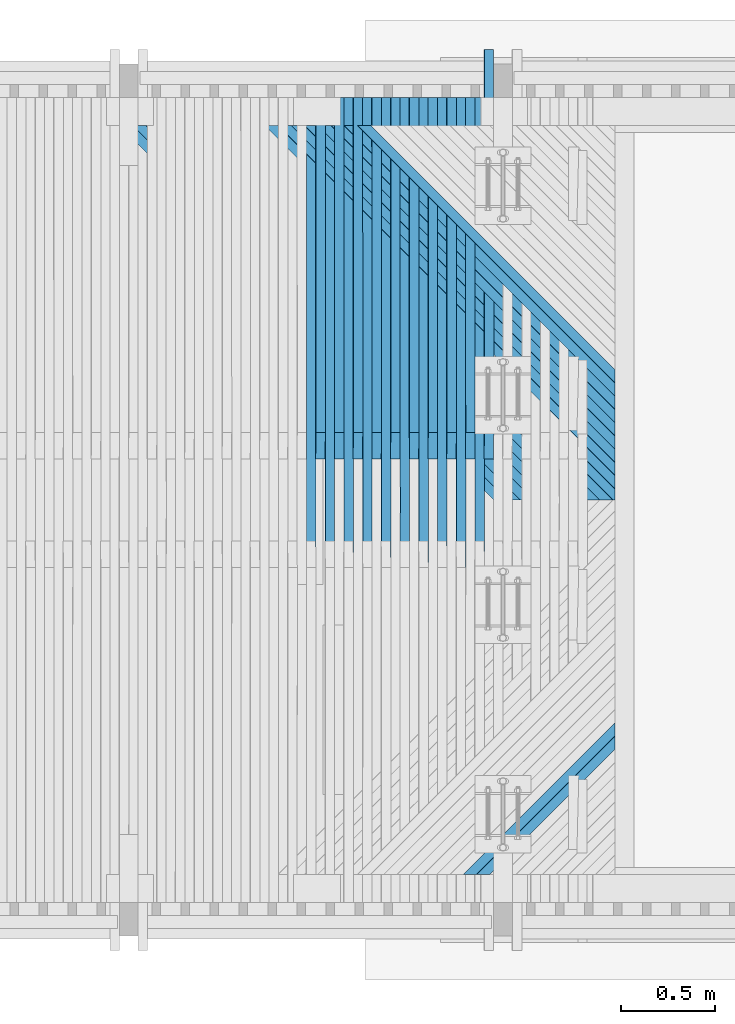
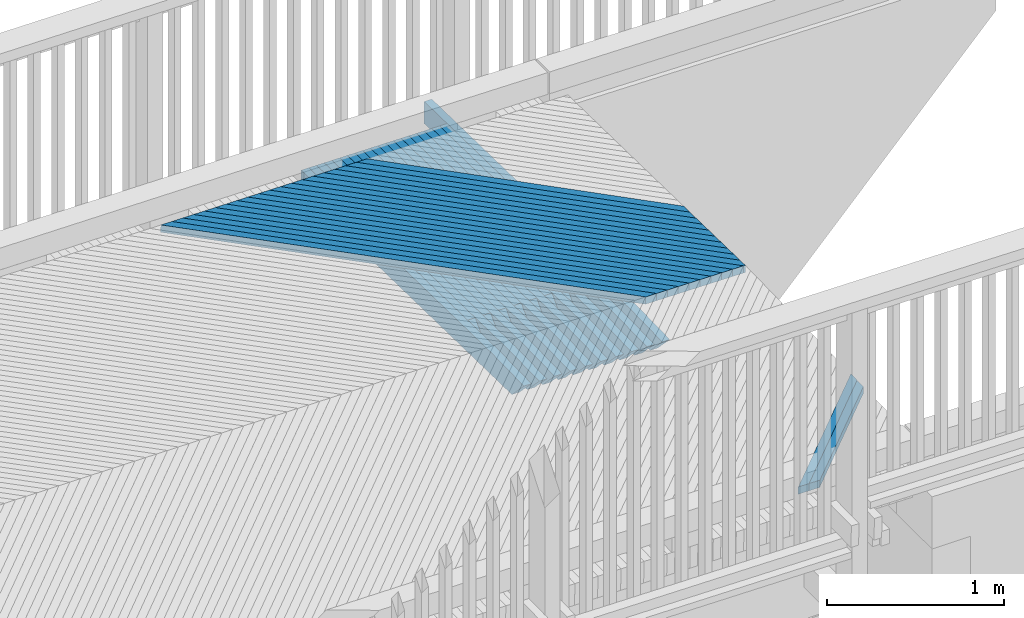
# One storey, part 43 of 52: 41 beams.
"""IFC2X3 building model written with IfcOpenShell, lengths in millimetres."""

from ifc_helpers import new_model, si_unit, frame, origin_with_axes, place, context, subcontext, project, spatial, faceted_brep, material, type_object, element, save


model = new_model("IFC2X3")

# Units and contexts
model_context = context("Model", 3, precision=1e-05, world=origin_with_axes())
body_context = subcontext(model_context, "Body", "Model", "MODEL_VIEW")
ifc_project = project(units=[si_unit("LENGTHUNIT", "METRE", prefix="MILLI"), si_unit("AREAUNIT", "SQUARE_METRE"), si_unit("VOLUMEUNIT", "CUBIC_METRE"), si_unit("MASSUNIT", "GRAM", prefix="KILO"), si_unit("TIMEUNIT", "SECOND"), si_unit("PLANEANGLEUNIT", "RADIAN"), si_unit("SOLIDANGLEUNIT", "STERADIAN"), si_unit("THERMODYNAMICTEMPERATUREUNIT", "DEGREE_CELSIUS"), si_unit("LUMINOUSINTENSITYUNIT", "LUMEN")], contexts=[model_context])

# Site, building, storey
site_placement = place(None, origin_with_axes())
site = spatial("IfcSite", under=ifc_project, at=site_placement, Name="Undefined", CompositionType="ELEMENT")
building_placement = place(site_placement, origin_with_axes())
building = spatial("IfcBuilding", under=site, at=building_placement, Name="Undefined", CompositionType="ELEMENT")
storey_placement = place(building_placement, origin_with_axes())
storey = spatial("IfcBuildingStorey", under=building, at=storey_placement, Name="Undefined", CompositionType="ELEMENT", Elevation=0.0)

# Beams
ifc_material = material(Name="TIMBER/Timber_Undefined")
beam_type_1 = type_object("IfcBeamType", Name="50*50", PredefinedType="NOTDEFINED")
beam_1_placement = place(storey_placement, frame((17895.3052888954, 2364.50010032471, 3154.80495489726), z_axis=(0.706807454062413, -0.706981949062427, -0.0244897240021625), x_axis=(-0.707254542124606, -0.706948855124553, -0.00378535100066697)))
element("IfcBeam", 1, at=beam_1_placement, inside=storey, type_object=beam_type_1, material=ifc_material, Name="BEAM", ObjectType="50*50", context=body_context, shape_type="Brep", body=[
    faceted_brep([(2802.92643296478, -25.0, 25.0000000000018), (2852.92877373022, -25.0, -24.9999999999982), (2854.34301907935, 25.0, -24.9999999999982), (2804.3406783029, 25.0000000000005, 25.0000000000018), (1805.95401836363, 25.0, -25.0000000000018), (1855.92241106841, 24.9999999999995, 24.9999999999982), (1856.95717342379, -25.0, 24.9999999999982), (1806.98878071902, -25.0, -25.0000000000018)], [[[0, 1, 2, 3]], [[3, 2, 4, 5]], [[0, 3, 5, 6]], [[1, 0, 6, 7]], [[2, 1, 7, 4]], [[6, 5, 4, 7]]]),
])
beam_2_placement = place(storey_placement, frame((17824.5905388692, 2364.50010032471, 3155.96311087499), z_axis=(0.706810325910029, -0.706981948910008, -0.0244067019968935), x_axis=(-0.707254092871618, -0.706948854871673, -0.00386842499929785)))
element("IfcBeam", 2, at=beam_2_placement, inside=storey, type_object=beam_type_1, material=ifc_material, Name="BEAM", ObjectType="50*50", context=body_context, shape_type="Brep", body=[
    faceted_brep([(2802.92643296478, -25.0, 25.0000000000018), (2852.92877373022, -25.0, -24.9999999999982), (2854.34301907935, 25.0, -24.9999999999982), (2804.3406783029, 25.0000000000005, 25.0000000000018), (1705.97428604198, 24.9999999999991, -25.0), (1755.94291351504, 24.9999999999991, 25.0), (1756.96937511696, -25.0, 24.9999999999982), (1707.0007476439, -25.0000000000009, -25.0000000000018)], [[[0, 1, 2, 3]], [[3, 2, 4, 5]], [[0, 3, 5, 6]], [[1, 0, 6, 7]], [[2, 1, 7, 4]], [[6, 5, 4, 7]]]),
])
beam_3_placement = place(storey_placement, frame((17258.8677408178, 2365.49989967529, 3164.92933385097), z_axis=(0.706832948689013, 0.706981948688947, -0.0237425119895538), x_axis=(-0.707250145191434, 0.706948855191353, -0.00453302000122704)))
element("IfcBeam", 3, at=beam_3_placement, inside=storey, type_object=beam_type_1, material=ifc_material, Name="BEAM", ObjectType="50*50", context=body_context, shape_type="Brep", body=[
    faceted_brep([(2804.3406783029, -25.0000000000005, 24.9999999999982), (2854.34301907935, -24.9999999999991, -25.0), (2852.92877373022, 25.0000000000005, -25.0), (2802.92643296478, 25.0, 24.9999999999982), (957.056097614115, 24.9999999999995, 25.0000000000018), (956.096042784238, -25.0000000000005, 25.0000000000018), (906.12553705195, -25.0, -24.9999999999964), (907.085591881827, 24.9999999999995, -24.9999999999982)], [[[0, 1, 2, 3]], [[0, 3, 4, 5]], [[1, 0, 5, 6]], [[2, 1, 6, 7]], [[3, 2, 7, 4]], [[6, 5, 4, 7]]]),
])
beam_4_placement = place(storey_placement, frame((17188.1518059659, 2365.49989967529, 3166.01273338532), z_axis=(0.706835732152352, 0.706981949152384, -0.0236594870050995), x_axis=(-0.707249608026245, 0.706948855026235, -0.00461609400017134)))
element("IfcBeam", 4, at=beam_4_placement, inside=storey, type_object=beam_type_1, material=ifc_material, Name="BEAM", ObjectType="50*50", context=body_context, shape_type="Brep", body=[
    faceted_brep([(2804.3406783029, -25.0000000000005, 24.9999999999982), (2854.34301907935, -24.9999999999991, -25.0), (2852.92877373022, 25.0000000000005, -25.0), (2802.92643296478, 25.0, 24.9999999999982), (857.065534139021, 25.0, 25.0), (856.113780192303, -24.9999999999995, 25.0), (806.143039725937, -25.0, -25.0), (807.094793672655, 24.9999999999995, -24.9999999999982)], [[[0, 1, 2, 3]], [[0, 3, 4, 5]], [[1, 0, 5, 6]], [[2, 1, 6, 7]], [[3, 2, 7, 4]], [[6, 5, 4, 7]]]),
])
beam_5_placement = place(storey_placement, frame((17117.4357443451, 2365.49989967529, 3167.08782657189), z_axis=(0.706838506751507, 0.706981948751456, -0.0235764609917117), x_axis=(-0.707249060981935, 0.706948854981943, -0.00469916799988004)))
element("IfcBeam", 5, at=beam_5_placement, inside=storey, type_object=beam_type_1, material=ifc_material, Name="BEAM", ObjectType="50*50", context=body_context, shape_type="Brep", body=[
    faceted_brep([(2804.3406783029, -25.0000000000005, 24.9999999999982), (2854.34301907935, -24.9999999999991, -25.0), (2852.92877373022, 25.0000000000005, -25.0), (2802.92643296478, 25.0, 24.9999999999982), (757.07464976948, 25.0000000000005, 25.0), (756.131196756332, -25.0, 25.0), (706.160221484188, -24.9999999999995, -25.0), (707.103674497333, 25.0, -25.0000000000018)], [[[0, 1, 2, 3]], [[0, 3, 4, 5]], [[1, 0, 5, 6]], [[2, 1, 6, 7]], [[3, 2, 7, 4]], [[6, 5, 4, 7]]]),
])
beam_6_placement = place(storey_placement, frame((17046.7195569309, 2365.49989967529, 3168.15461339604), z_axis=(0.706841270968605, 0.706981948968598, -0.0234934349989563), x_axis=(-0.707248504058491, 0.706948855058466, -0.00478224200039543)))
element("IfcBeam", 6, at=beam_6_placement, inside=storey, type_object=beam_type_1, material=ifc_material, Name="BEAM", ObjectType="50*50", context=body_context, shape_type="Brep", body=[
    faceted_brep([(2804.3406783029, -25.0000000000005, 24.9999999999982), (2854.34301907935, -24.9999999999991, -25.0), (2852.92877373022, 25.0000000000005, -25.0), (2802.92643296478, 25.0, 24.9999999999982), (657.083441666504, 24.9999999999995, 24.9999999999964), (656.148289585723, -25.0000000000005, 24.9999999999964), (606.177079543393, -25.0000000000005, -25.0000000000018), (607.112231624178, 25.0, -25.0000000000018)], [[[0, 1, 2, 3]], [[0, 3, 4, 5]], [[1, 0, 5, 6]], [[2, 1, 6, 7]], [[3, 2, 7, 4]], [[6, 5, 4, 7]]]),
])
beam_7_placement = place(storey_placement, frame((16976.0032446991, 2365.49989967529, 3169.21309384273), z_axis=(0.70684402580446, 0.706981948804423, -0.0234104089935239), x_axis=(-0.707247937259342, 0.706948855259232, -0.00486531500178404)))
element("IfcBeam", 7, at=beam_7_placement, inside=storey, type_object=beam_type_1, material=ifc_material, Name="BEAM", ObjectType="50*50", context=body_context, shape_type="Brep", body=[
    faceted_brep([(2804.3406783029, -25.0000000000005, 24.9999999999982), (2854.34301907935, -24.9999999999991, -25.0), (2852.92877373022, 25.0000000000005, -25.0), (2802.92643296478, 25.0, 24.9999999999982), (557.091907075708, 25.0, 25.0000000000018), (556.165055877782, -24.9999999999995, 25.0000000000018), (506.193611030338, -24.9999999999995, -24.9999999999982), (507.120462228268, 25.0, -24.9999999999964)], [[[0, 1, 2, 3]], [[0, 3, 4, 5]], [[1, 0, 5, 6]], [[2, 1, 6, 7]], [[3, 2, 7, 4]], [[6, 5, 4, 7]]]),
])
beam_8_placement = place(storey_placement, frame((16905.2868086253, 2365.49989967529, 3170.26326789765), z_axis=(0.706846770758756, 0.706981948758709, -0.0233273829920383), x_axis=(-0.707247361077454, 0.706948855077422, -0.00494838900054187)))
element("IfcBeam", 8, at=beam_8_placement, inside=storey, type_object=beam_type_1, material=ifc_material, Name="BEAM", ObjectType="50*50", context=body_context, shape_type="Brep", body=[
    faceted_brep([(2804.3406783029, -25.0000000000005, 24.9999999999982), (2854.34301907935, -24.9999999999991, -25.0), (2852.92877373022, 25.0000000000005, -25.0), (2802.92643296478, 25.0, 24.9999999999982), (457.100042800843, 25.0000000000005, 24.9999999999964), (456.18149253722, -25.0, 25.0000000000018), (406.209812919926, -24.9999999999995, -25.0), (407.128363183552, 25.0000000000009, -25.0000000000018)], [[[0, 1, 2, 3]], [[0, 3, 4, 5]], [[1, 0, 5, 6]], [[2, 1, 6, 7]], [[3, 2, 7, 4]], [[6, 5, 4, 7]]]),
])
beam_9_placement = place(storey_placement, frame((16834.5702496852, 2365.49989967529, 3171.30513554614), z_axis=(0.706849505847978, 0.706981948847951, -0.023244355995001), x_axis=(-0.707246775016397, 0.70694885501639, -0.00503146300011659)))
element("IfcBeam", 9, at=beam_9_placement, inside=storey, type_object=beam_type_1, material=ifc_material, Name="BEAM", ObjectType="50*50", context=body_context, shape_type="Brep", body=[
    faceted_brep([(2804.3406783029, -25.0000000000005, 24.9999999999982), (2854.34301907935, -24.9999999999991, -25.0), (2852.92877373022, 25.0000000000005, -25.0), (2802.92643296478, 25.0, 24.9999999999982), (357.107846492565, 24.9999999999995, 25.0), (356.19759721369, -25.0, 24.9999999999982), (306.225682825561, -25.0, -25.0000000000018), (307.135932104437, 24.9999999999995, -25.0)], [[[0, 1, 2, 3]], [[0, 3, 4, 5]], [[1, 0, 5, 6]], [[2, 1, 6, 7]], [[3, 2, 7, 4]], [[6, 5, 4, 7]]]),
])
beam_10_placement = place(storey_placement, frame((16763.8535688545, 2365.49989967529, 3172.33869677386), z_axis=(0.706852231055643, 0.706981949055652, -0.0231613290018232), x_axis=(-0.707246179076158, 0.706948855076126, -0.0051145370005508)))
element("IfcBeam", 10, at=beam_10_placement, inside=storey, type_object=beam_type_1, material=ifc_material, Name="BEAM", ObjectType="50*50", context=body_context, shape_type="Brep", body=[
    faceted_brep([(2804.3406783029, -25.0000000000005, 24.9999999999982), (2854.34301907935, -24.9999999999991, -25.0), (2852.92877373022, 25.0000000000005, -25.0), (2802.92643296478, 25.0, 24.9999999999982), (257.115315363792, 25.0000000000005, 25.0), (256.213367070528, -25.0, 25.0000000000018), (206.241217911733, -25.0, -24.9999999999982), (207.143166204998, 25.0000000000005, -24.9999999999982)], [[[0, 1, 2, 3]], [[0, 3, 4, 5]], [[1, 0, 5, 6]], [[2, 1, 6, 7]], [[3, 2, 7, 4]], [[6, 5, 4, 7]]]),
])
beam_11_placement = place(storey_placement, frame((16693.1367671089, 2365.49989967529, 3173.36395156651), z_axis=(0.706854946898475, 0.706981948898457, -0.0230783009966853), x_axis=(-0.7072455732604, 0.706948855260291, -0.00519761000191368)))
element("IfcBeam", 11, at=beam_11_placement, inside=storey, type_object=beam_type_1, material=ifc_material, Name="BEAM", ObjectType="50*50", context=body_context, shape_type="Brep", body=[
    faceted_brep([(2804.3406783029, -25.0000000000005, 24.9999999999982), (2854.34301907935, -24.9999999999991, -25.0), (2852.92877373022, 25.0000000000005, -25.0), (2802.92643296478, 25.0, 24.9999999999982), (157.122446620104, 25.0000000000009, 25.0000000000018), (156.228799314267, -24.9999999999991, 25.0000000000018), (106.256415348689, -24.9999999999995, -24.9999999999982), (107.150062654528, 25.0000000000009, -24.9999999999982)], [[[0, 1, 2, 3]], [[0, 3, 4, 5]], [[1, 0, 5, 6]], [[2, 1, 6, 7]], [[3, 2, 7, 4]], [[6, 5, 4, 7]]]),
])
beam_12_placement = place(storey_placement, frame((16622.419845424, 2365.49989967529, 3174.38089991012), z_axis=(0.706857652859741, 0.706981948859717, -0.0229952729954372), x_axis=(-0.707244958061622, 0.706948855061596, -0.00528068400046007)))
element("IfcBeam", 12, at=beam_12_placement, inside=storey, type_object=beam_type_1, material=ifc_material, Name="BEAM", ObjectType="50*50", context=body_context, shape_type="Brep", body=[
    faceted_brep([(25.0011701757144, -25.0, -25.0), (23.5869248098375, 25.0, -25.0000000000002), (2852.92877373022, 25.0000000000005, -25.0), (2854.34301907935, -24.9999999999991, -25.0), (2804.3406783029, -25.0000000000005, 24.9999999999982), (2802.92643296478, 25.0, 24.9999999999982), (57.1292373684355, 25.0000000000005, 24.9999999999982), (56.2438911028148, -24.9999999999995, 25.0), (15.6334371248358, -25.0, -15.632705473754), (15.3693294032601, 25.0, -16.7827892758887)], [[[0, 1, 2, 3]], [[4, 3, 2, 5]], [[4, 5, 6, 7]], [[0, 3, 4, 7, 8]], [[1, 0, 8, 9]], [[5, 2, 1, 9, 6]], [[8, 7, 6, 9]]]),
])
for number, where, z_axis, x_axis, name in (
    (13, (16551.7028047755, 2365.49989967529, 3175.38954179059), (0.706860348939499, 0.70698194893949, -0.0229122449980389), (-0.707244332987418, 0.706948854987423, -0.0053637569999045), "BEAM"),
    (14, (16480.9856461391, 2365.49989967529, 3176.38987719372), (0.706863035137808, 0.706981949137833, -0.0228292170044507), (-0.707243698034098, 0.706948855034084, -0.00544683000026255), "BEAM"),
    (15, (16410.2683704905, 2365.49989967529, 3177.38190610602), (0.706865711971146, 0.706981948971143, -0.0227461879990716), (-0.707243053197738, 0.706948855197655, -0.00552990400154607), "BEAM"),
    (16, (16339.5509788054, 2365.49989967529, 3178.36562851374), (0.706868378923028, 0.706981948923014, -0.0226631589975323), (-0.707242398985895, 0.7069488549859, -0.00561297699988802), "BEAM"),
    (17, (16268.8334720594, 2365.49989967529, 3179.34104440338), (0.706871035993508, 0.706981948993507, -0.0225801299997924), (-0.707241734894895, 0.706948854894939, -0.00569604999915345), "BEAM"),
    (18, (16198.1158512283, 2365.49989967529, 3180.30815376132), (0.706873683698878, 0.706981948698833, -0.0224970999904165), (-0.707241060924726, 0.706948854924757, -0.00577912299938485), "BEAM"),
    (19, (16127.3981172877, 2365.49989967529, 3181.26695657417), (0.706876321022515, 0.706981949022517, -0.0224140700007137), (-0.707240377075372, 0.706948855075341, -0.00586219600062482), "BEAM"),
    (20, (16056.6802712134, 2365.49989967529, 3182.21745282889), (0.706878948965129, 0.706981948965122, -0.0223310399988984), (-0.70723968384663, 0.706948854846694, -0.00594526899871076), "BEAM"),
    (21, (15985.962313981, 2365.49989967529, 3183.15964251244), (0.706881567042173, 0.706981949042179, -0.0222480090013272), (-0.707238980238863, 0.706948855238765, -0.00602834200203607), "BEAM"),
):
    element("IfcBeam", number, at=place(storey_placement, frame(where, z_axis=z_axis, x_axis=x_axis)), inside=storey, type_object=beam_type_1, material=ifc_material, Name=name, ObjectType="50*50", context=body_context, shape_type="Brep", body=[
        faceted_brep([(23.5869248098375, 25.0, -25.0000000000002), (-26.4154158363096, 25.0000000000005, 24.9999999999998), (2802.92643296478, 25.0, 24.9999999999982), (2852.92877373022, 25.0000000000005, -25.0), (-25.0011704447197, -25.0, 24.9999999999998), (2804.3406783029, -25.0000000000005, 24.9999999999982), (25.0011701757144, -25.0, -25.0), (2854.34301907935, -24.9999999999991, -25.0)], [[[0, 1, 2, 3]], [[1, 4, 5, 2]], [[4, 6, 7, 5]], [[6, 0, 3, 7]], [[5, 7, 3, 2]], [[6, 4, 1, 0]]]),
    ])
beam_type_2 = type_object("IfcBeamType", Name="150*50", PredefinedType="NOTDEFINED")
for number, where, z_axis, x_axis, name in (
    (22, (15874.7290061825, 4513.4953923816, 3041.62863633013), (0.0130016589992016, 0.0199960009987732, 0.999715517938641), (0.000260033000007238, -0.999800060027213, 0.0199943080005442), "BEAM"),
    (23, (15774.717424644, 4513.4953923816, 3042.92875591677), (0.0128355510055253, 0.0199960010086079, 0.999717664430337), (0.000256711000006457, -0.999800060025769, 0.0199943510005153), "BEAM"),
):
    element("IfcBeam", number, at=place(storey_placement, frame(where, z_axis=z_axis, x_axis=x_axis)), inside=storey, type_object=beam_type_2, material=ifc_material, Name=name, ObjectType="150*50", context=body_context, shape_type="Brep", body=[
        faceted_brep([(-1.67788130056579e-07, -24.9999999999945, -74.9999999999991), (-1.67787220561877e-07, 25.0000000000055, -75.0), (2375.00494422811, 25.0000000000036, -74.9999999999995), (2375.0049444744, -24.9999999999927, -74.9999999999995), (1.67786311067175e-07, -24.9999999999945, 75.0000000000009), (1.67786311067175e-07, 25.0000000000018, 75.0), (2150.42515052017, 25.0000000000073, 75.0), (2510.59248715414, 25.0000000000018, 60.5875433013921), (2510.5924871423, -24.9999999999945, 60.5875430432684), (2150.42514405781, -24.9999999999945, 75.0000000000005)], [[[0, 1, 2, 3]], [[0, 4, 5, 1]], [[2, 1, 5, 6, 7]], [[3, 2, 7, 8]], [[4, 0, 3, 8, 9]], [[5, 4, 9, 6]], [[8, 7, 6, 9]]]),
    ])
beam_13_placement = place(storey_placement, frame((15824.7332279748, 4513.49539238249, 3042.27828425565), z_axis=(0.0130016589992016, 0.0199960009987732, 0.999715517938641), x_axis=(0.000260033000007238, -0.999800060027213, 0.0199943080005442)))
element("IfcBeam", 24, at=beam_13_placement, inside=storey, type_object=beam_type_2, material=ifc_material, Name="BEAM", ObjectType="150*50", context=body_context, shape_type="Brep", body=[
    faceted_brep([(-1.67788130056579e-07, -24.9999999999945, -74.9999999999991), (1.67786311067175e-07, -24.9999999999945, 75.0000000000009), (1.67786311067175e-07, 25.0000000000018, 75.0), (-1.67787220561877e-07, 25.0000000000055, -75.0), (1789.96936408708, 24.9999999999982, 75.0000000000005), (1928.42646328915, 24.9999999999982, -74.9999999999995), (1928.42646353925, -25.0, -75.0), (1789.96936433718, -25.0000000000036, 74.9999999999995)], [[[0, 1, 2, 3]], [[3, 2, 4, 5]], [[0, 3, 5, 6]], [[1, 0, 6, 7]], [[2, 1, 7, 4]], [[5, 4, 7, 6]]]),
])
beam_14_placement = place(storey_placement, frame((15674.7056284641, 4513.4953923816, 3044.21225802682), z_axis=(0.012669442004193, 0.0199960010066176, 0.999719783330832), x_axis=(0.000253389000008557, -0.99980006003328, 0.0199943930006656)))
element("IfcBeam", 25, at=beam_14_placement, inside=storey, type_object=beam_type_2, material=ifc_material, Name="BEAM", ObjectType="150*50", context=body_context, shape_type="Brep", body=[
    faceted_brep([(-1.67788130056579e-07, -24.9999999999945, -74.9999999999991), (-1.67787220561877e-07, 25.0000000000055, -75.0), (2375.00494422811, 25.0000000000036, -74.9999999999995), (2375.0049444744, -24.9999999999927, -74.9999999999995), (1.67786311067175e-07, -24.9999999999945, 75.0000000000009), (1.67786311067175e-07, 25.0000000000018, 75.0), (2150.42515052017, 25.0000000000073, 75.0), (2510.59248715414, 25.0000000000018, 60.5875433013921), (2510.5924871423, -24.9999999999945, 60.5875430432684), (2150.42514405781, -24.9999999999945, 75.0000000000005)], [[[0, 1, 2, 3]], [[0, 4, 5, 1]], [[2, 1, 5, 6, 7]], [[3, 2, 7, 8]], [[4, 0, 3, 8, 9]], [[5, 4, 9, 6]], [[8, 7, 6, 9]]]),
])
beam_15_placement = place(storey_placement, frame((15724.7215391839, 4513.49539238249, 3043.57009676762), z_axis=(0.0128355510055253, 0.0199960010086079, 0.999717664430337), x_axis=(0.000256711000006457, -0.999800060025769, 0.0199943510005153)))
element("IfcBeam", 26, at=beam_15_placement, inside=storey, type_object=beam_type_2, material=ifc_material, Name="BEAM", ObjectType="150*50", context=body_context, shape_type="Brep", body=[
    faceted_brep([(-1.67788130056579e-07, -24.9999999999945, -74.9999999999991), (1.67786311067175e-07, -24.9999999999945, 75.0000000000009), (1.67786311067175e-07, 25.0000000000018, 75.0), (-1.67787220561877e-07, 25.0000000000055, -75.0), (1789.96936408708, 24.9999999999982, 75.0000000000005), (1928.42646328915, 24.9999999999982, -74.9999999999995), (1928.42646353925, -25.0, -75.0), (1789.96936433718, -25.0000000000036, 74.9999999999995)], [[[0, 1, 2, 3]], [[3, 2, 4, 5]], [[0, 3, 5, 6]], [[1, 0, 6, 7]], [[2, 1, 7, 4]], [[5, 4, 7, 6]]]),
])
beam_16_placement = place(storey_placement, frame((15574.6936204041, 4513.4953923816, 3045.47914262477), z_axis=(0.0125033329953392, 0.0199960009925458, 0.999721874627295), x_axis=(0.000250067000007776, -0.999800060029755, 0.0199944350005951)))
element("IfcBeam", 27, at=beam_16_placement, inside=storey, type_object=beam_type_2, material=ifc_material, Name="BEAM", ObjectType="150*50", context=body_context, shape_type="Brep", body=[
    faceted_brep([(-1.67788130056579e-07, -24.9999999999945, -74.9999999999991), (-1.67787220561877e-07, 25.0000000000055, -75.0), (2375.00494422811, 25.0000000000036, -74.9999999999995), (2375.0049444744, -24.9999999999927, -74.9999999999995), (1.67786311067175e-07, -24.9999999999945, 75.0000000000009), (1.67786311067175e-07, 25.0000000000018, 75.0), (2150.42515052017, 25.0000000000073, 75.0), (2510.59248715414, 25.0000000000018, 60.5875433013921), (2510.5924871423, -24.9999999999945, 60.5875430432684), (2150.42514405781, -24.9999999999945, 75.0000000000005)], [[[0, 1, 2, 3]], [[0, 4, 5, 1]], [[2, 1, 5, 6, 7]], [[3, 2, 7, 8]], [[4, 0, 3, 8, 9]], [[5, 4, 9, 6]], [[8, 7, 6, 9]]]),
])
beam_17_placement = place(storey_placement, frame((15624.7096371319, 4513.49539238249, 3044.8452917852), z_axis=(0.012669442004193, 0.0199960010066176, 0.999719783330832), x_axis=(0.000253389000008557, -0.99980006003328, 0.0199943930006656)))
element("IfcBeam", 28, at=beam_17_placement, inside=storey, type_object=beam_type_2, material=ifc_material, Name="BEAM", ObjectType="150*50", context=body_context, shape_type="Brep", body=[
    faceted_brep([(-1.67788130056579e-07, -24.9999999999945, -74.9999999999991), (1.67786311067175e-07, -24.9999999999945, 75.0000000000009), (1.67786311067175e-07, 25.0000000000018, 75.0), (-1.67787220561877e-07, 25.0000000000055, -75.0), (1789.96936408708, 24.9999999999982, 75.0000000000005), (1928.42646328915, 24.9999999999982, -74.9999999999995), (1928.42646353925, -25.0, -75.0), (1789.96936433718, -25.0000000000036, 74.9999999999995)], [[[0, 1, 2, 3]], [[3, 2, 4, 5]], [[0, 3, 5, 6]], [[1, 0, 6, 7]], [[2, 1, 7, 4]], [[5, 4, 7, 6]]]),
])
beam_18_placement = place(storey_placement, frame((15474.6814032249, 4513.4953923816, 3046.72940967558), z_axis=(0.0123372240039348, 0.0199960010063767, 0.999723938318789), x_axis=(0.000246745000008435, -0.999800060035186, 0.0199944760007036)))
element("IfcBeam", 29, at=beam_18_placement, inside=storey, type_object=beam_type_2, material=ifc_material, Name="BEAM", ObjectType="150*50", context=body_context, shape_type="Brep", body=[
    faceted_brep([(-1.67788130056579e-07, -24.9999999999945, -74.9999999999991), (-1.67787220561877e-07, 25.0000000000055, -75.0), (2375.00494422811, 25.0000000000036, -74.9999999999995), (2375.0049444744, -24.9999999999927, -74.9999999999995), (1.67786311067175e-07, -24.9999999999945, 75.0000000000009), (1.67786311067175e-07, 25.0000000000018, 75.0), (2150.42515052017, 25.0000000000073, 75.0), (2510.59248715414, 25.0000000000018, 60.5875433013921), (2510.5924871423, -24.9999999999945, 60.5875430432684), (2150.42514405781, -24.9999999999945, 75.0000000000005)], [[[0, 1, 2, 3]], [[0, 4, 5, 1]], [[2, 1, 5, 6, 7]], [[3, 2, 7, 8]], [[4, 0, 3, 8, 9]], [[5, 4, 9, 6]], [[8, 7, 6, 9]]]),
])
beam_19_placement = place(storey_placement, frame((15524.6975245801, 4513.49539238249, 3046.10386927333), z_axis=(0.0125033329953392, 0.0199960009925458, 0.999721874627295), x_axis=(0.000250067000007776, -0.999800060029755, 0.0199944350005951)))
element("IfcBeam", 30, at=beam_19_placement, inside=storey, type_object=beam_type_2, material=ifc_material, Name="BEAM", ObjectType="150*50", context=body_context, shape_type="Brep", body=[
    faceted_brep([(-1.67788130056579e-07, -24.9999999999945, -74.9999999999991), (1.67786311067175e-07, -24.9999999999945, 75.0000000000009), (1.67786311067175e-07, 25.0000000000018, 75.0), (-1.67787220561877e-07, 25.0000000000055, -75.0), (1789.96936408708, 24.9999999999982, 75.0000000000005), (1928.42646328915, 24.9999999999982, -74.9999999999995), (1928.42646353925, -25.0, -75.0), (1789.96936433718, -25.0000000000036, 74.9999999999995)], [[[0, 1, 2, 3]], [[3, 2, 4, 5]], [[0, 3, 5, 6]], [[1, 0, 6, 7]], [[2, 1, 7, 4]], [[5, 4, 7, 6]]]),
])
beam_20_placement = place(storey_placement, frame((15374.6689796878, 4513.4953923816, 3047.96305914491), z_axis=(0.0121711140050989, 0.0199960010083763, 0.999725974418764), x_axis=(0.000243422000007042, -0.999800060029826, 0.0199945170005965)))
element("IfcBeam", 31, at=beam_20_placement, inside=storey, type_object=beam_type_2, material=ifc_material, Name="BEAM", ObjectType="150*50", context=body_context, shape_type="Brep", body=[
    faceted_brep([(-1.67788130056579e-07, -24.9999999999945, -74.9999999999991), (-1.67787220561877e-07, 25.0000000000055, -75.0), (2375.00494422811, 25.0000000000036, -74.9999999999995), (2375.0049444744, -24.9999999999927, -74.9999999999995), (1.67786311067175e-07, -24.9999999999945, 75.0000000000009), (1.67786311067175e-07, 25.0000000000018, 75.0), (2150.42515052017, 25.0000000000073, 75.0), (2510.59248715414, 25.0000000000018, 60.5875433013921), (2510.5924871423, -24.9999999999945, 60.5875430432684), (2150.42514405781, -24.9999999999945, 75.0000000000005)], [[[0, 1, 2, 3]], [[0, 4, 5, 1]], [[2, 1, 5, 6, 7]], [[3, 2, 7, 8]], [[4, 0, 3, 8, 9]], [[5, 4, 9, 6]], [[8, 7, 6, 9]]]),
])
beam_21_placement = place(storey_placement, frame((15424.6852042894, 4513.49539238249, 3047.34582919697), z_axis=(0.0123372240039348, 0.0199960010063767, 0.999723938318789), x_axis=(0.000246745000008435, -0.999800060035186, 0.0199944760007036)))
element("IfcBeam", 32, at=beam_21_placement, inside=storey, type_object=beam_type_2, material=ifc_material, Name="BEAM", ObjectType="150*50", context=body_context, shape_type="Brep", body=[
    faceted_brep([(-1.67788130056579e-07, -24.9999999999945, -74.9999999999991), (1.67786311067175e-07, -24.9999999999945, 75.0000000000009), (1.67786311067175e-07, 25.0000000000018, 75.0), (-1.67787220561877e-07, 25.0000000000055, -75.0), (1789.96936408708, 24.9999999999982, 75.0000000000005), (1928.42646328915, 24.9999999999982, -74.9999999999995), (1928.42646353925, -25.0, -75.0), (1789.96936433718, -25.0000000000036, 74.9999999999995)], [[[0, 1, 2, 3]], [[3, 2, 4, 5]], [[0, 3, 5, 6]], [[1, 0, 6, 7]], [[2, 1, 7, 4]], [[5, 4, 7, 6]]]),
])
beam_22_placement = place(storey_placement, frame((15274.6563525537, 4513.4953923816, 3049.1800909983), z_axis=(0.0120050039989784, 0.019996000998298, 0.999727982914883), x_axis=(0.000240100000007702, -0.999800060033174, 0.0199945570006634)))
element("IfcBeam", 33, at=beam_22_placement, inside=storey, type_object=beam_type_2, material=ifc_material, Name="BEAM", ObjectType="150*50", context=body_context, shape_type="Brep", body=[
    faceted_brep([(-1.67788130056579e-07, -24.9999999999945, -74.9999999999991), (-1.67787220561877e-07, 25.0000000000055, -75.0), (2375.00494422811, 25.0000000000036, -74.9999999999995), (2375.0049444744, -24.9999999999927, -74.9999999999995), (1.67786311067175e-07, -24.9999999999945, 75.0000000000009), (1.67786311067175e-07, 25.0000000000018, 75.0), (2150.42515052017, 25.0000000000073, 75.0), (2510.59248715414, 25.0000000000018, 60.5875433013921), (2510.5924871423, -24.9999999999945, 60.5875430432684), (2150.42514405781, -24.9999999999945, 75.0000000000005)], [[[0, 1, 2, 3]], [[0, 4, 5, 1]], [[2, 1, 5, 6, 7]], [[3, 2, 7, 8]], [[4, 0, 3, 8, 9]], [[5, 4, 9, 6]], [[8, 7, 6, 9]]]),
])
beam_23_placement = place(storey_placement, frame((15324.672679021, 4513.49539238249, 3048.57117152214), z_axis=(0.0121711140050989, 0.0199960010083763, 0.999725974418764), x_axis=(0.000243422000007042, -0.999800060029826, 0.0199945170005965)))
element("IfcBeam", 34, at=beam_23_placement, inside=storey, type_object=beam_type_2, material=ifc_material, Name="BEAM", ObjectType="150*50", context=body_context, shape_type="Brep", body=[
    faceted_brep([(-1.67788130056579e-07, -24.9999999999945, -74.9999999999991), (1.67786311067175e-07, -24.9999999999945, 75.0000000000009), (1.67786311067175e-07, 25.0000000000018, 75.0), (-1.67787220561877e-07, 25.0000000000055, -75.0), (1789.96936408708, 24.9999999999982, 75.0000000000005), (1928.42646328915, 24.9999999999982, -74.9999999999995), (1928.42646353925, -25.0, -75.0), (1789.96936433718, -25.0000000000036, 74.9999999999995)], [[[0, 1, 2, 3]], [[3, 2, 4, 5]], [[0, 3, 5, 6]], [[1, 0, 6, 7]], [[2, 1, 7, 4]], [[5, 4, 7, 6]]]),
])
beam_24_placement = place(storey_placement, frame((15174.6435245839, 4513.4953923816, 3050.38050520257), z_axis=(0.0118388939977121, 0.0199960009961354, 0.999729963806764), x_axis=(0.0002367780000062, -0.999800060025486, 0.0199945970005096)))
element("IfcBeam", 35, at=beam_24_placement, inside=storey, type_object=beam_type_2, material=ifc_material, Name="BEAM", ObjectType="150*50", context=body_context, shape_type="Brep", body=[
    faceted_brep([(-1.67788130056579e-07, -24.9999999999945, -74.9999999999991), (-1.67787220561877e-07, 25.0000000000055, -75.0), (2375.00494422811, 25.0000000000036, -74.9999999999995), (2375.0049444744, -24.9999999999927, -74.9999999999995), (1.67786311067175e-07, -24.9999999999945, 75.0000000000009), (1.67786311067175e-07, 25.0000000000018, 75.0), (2150.42515052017, 25.0000000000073, 75.0), (2510.59248715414, 25.0000000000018, 60.5875433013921), (2510.5924871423, -24.9999999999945, 60.5875430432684), (2150.42514405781, -24.9999999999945, 75.0000000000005)], [[[0, 1, 2, 3]], [[0, 4, 5, 1]], [[2, 1, 5, 6, 7]], [[3, 2, 7, 8]], [[4, 0, 3, 8, 9]], [[5, 4, 9, 6]], [[8, 7, 6, 9]]]),
])
beam_25_placement = place(storey_placement, frame((15224.659951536, 4513.49539238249, 3049.77989621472), z_axis=(0.0120050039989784, 0.019996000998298, 0.999727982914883), x_axis=(0.000240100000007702, -0.999800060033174, 0.0199945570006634)))
element("IfcBeam", 36, at=beam_25_placement, inside=storey, type_object=beam_type_2, material=ifc_material, Name="BEAM", ObjectType="150*50", context=body_context, shape_type="Brep", body=[
    faceted_brep([(-1.67788130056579e-07, -24.9999999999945, -74.9999999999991), (1.67786311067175e-07, -24.9999999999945, 75.0000000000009), (1.67786311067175e-07, 25.0000000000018, 75.0), (-1.67787220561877e-07, 25.0000000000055, -75.0), (1789.96936408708, 24.9999999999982, 75.0000000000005), (1928.42646328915, 24.9999999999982, -74.9999999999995), (1928.42646353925, -25.0, -75.0), (1789.96936433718, -25.0000000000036, 74.9999999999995)], [[[0, 1, 2, 3]], [[3, 2, 4, 5]], [[0, 3, 5, 6]], [[1, 0, 6, 7]], [[2, 1, 7, 4]], [[5, 4, 7, 6]]]),
])
beam_26_placement = place(storey_placement, frame((15074.6304985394, 4513.4953923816, 3051.56430172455), z_axis=(0.0116727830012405, 0.0199960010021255, 0.999731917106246), x_axis=(0.000233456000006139, -0.999800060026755, 0.0199946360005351)))
element("IfcBeam", 37, at=beam_26_placement, inside=storey, type_object=beam_type_2, material=ifc_material, Name="BEAM", ObjectType="150*50", context=body_context, shape_type="Brep", body=[
    faceted_brep([(-1.67788130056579e-07, -24.9999999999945, -74.9999999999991), (-1.67787220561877e-07, 25.0000000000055, -75.0), (2375.00494422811, 25.0000000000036, -74.9999999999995), (2375.0049444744, -24.9999999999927, -74.9999999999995), (1.67786311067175e-07, -24.9999999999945, 75.0000000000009), (1.67786311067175e-07, 25.0000000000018, 75.0), (2150.42515052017, 25.0000000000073, 75.0), (2510.59248715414, 25.0000000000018, 60.5875433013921), (2510.5924871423, -24.9999999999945, 60.5875430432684), (2150.42514405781, -24.9999999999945, 75.0000000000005)], [[[0, 1, 2, 3]], [[0, 4, 5, 1]], [[2, 1, 5, 6, 7]], [[3, 2, 7, 8]], [[4, 0, 3, 8, 9]], [[5, 4, 9, 6]], [[8, 7, 6, 9]]]),
])
beam_27_placement = place(storey_placement, frame((15124.6470245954, 4513.49539238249, 3050.97200324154), z_axis=(0.0118388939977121, 0.0199960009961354, 0.999729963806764), x_axis=(0.0002367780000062, -0.999800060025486, 0.0199945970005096)))
element("IfcBeam", 38, at=beam_27_placement, inside=storey, type_object=beam_type_2, material=ifc_material, Name="BEAM", ObjectType="150*50", context=body_context, shape_type="Brep", body=[
    faceted_brep([(-1.67788130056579e-07, -24.9999999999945, -74.9999999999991), (1.67786311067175e-07, -24.9999999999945, 75.0000000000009), (1.67786311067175e-07, 25.0000000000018, 75.0), (-1.67787220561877e-07, 25.0000000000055, -75.0), (1789.96936408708, 24.9999999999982, 75.0000000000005), (1928.42646328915, 24.9999999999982, -74.9999999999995), (1928.42646353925, -25.0, -75.0), (1789.96936433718, -25.0000000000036, 74.9999999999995)], [[[0, 1, 2, 3]], [[3, 2, 4, 5]], [[0, 3, 5, 6]], [[1, 0, 6, 7]], [[2, 1, 7, 4]], [[5, 4, 7, 6]]]),
])
beam_28_placement = place(storey_placement, frame((14974.6172771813, 4513.4953923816, 3052.73148053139), z_axis=(0.0115066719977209, 0.0199960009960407, 0.999733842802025), x_axis=(0.00023013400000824, -0.999800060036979, 0.0199946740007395)))
element("IfcBeam", 39, at=beam_28_placement, inside=storey, type_object=beam_type_2, material=ifc_material, Name="BEAM", ObjectType="150*50", context=body_context, shape_type="Brep", body=[
    faceted_brep([(-1.67788130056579e-07, -24.9999999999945, -74.9999999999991), (-1.67787220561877e-07, 25.0000000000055, -75.0), (2375.00494422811, 25.0000000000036, -74.9999999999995), (2375.0049444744, -24.9999999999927, -74.9999999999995), (1.67786311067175e-07, -24.9999999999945, 75.0000000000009), (1.67786311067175e-07, 25.0000000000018, 75.0), (2150.42515052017, 25.0000000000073, 75.0), (2510.59248715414, 25.0000000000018, 60.5875433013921), (2510.5924871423, -24.9999999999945, 60.5875430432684), (2150.42514405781, -24.9999999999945, 75.0000000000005)], [[[0, 1, 2, 3]], [[0, 4, 5, 1]], [[2, 1, 5, 6, 7]], [[3, 2, 7, 8]], [[4, 0, 3, 8, 9]], [[5, 4, 9, 6]], [[8, 7, 6, 9]]]),
])
beam_29_placement = place(storey_placement, frame((15024.6339009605, 4513.49539238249, 3052.14749256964), z_axis=(0.0116727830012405, 0.0199960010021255, 0.999731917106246), x_axis=(0.000233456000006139, -0.999800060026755, 0.0199946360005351)))
element("IfcBeam", 40, at=beam_29_placement, inside=storey, type_object=beam_type_2, material=ifc_material, Name="BEAM", ObjectType="150*50", context=body_context, shape_type="Brep", body=[
    faceted_brep([(-1.67788130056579e-07, -24.9999999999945, -74.9999999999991), (1.67786311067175e-07, -24.9999999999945, 75.0000000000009), (1.67786311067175e-07, 25.0000000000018, 75.0), (-1.67787220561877e-07, 25.0000000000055, -75.0), (1789.96936408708, 24.9999999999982, 75.0000000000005), (1928.42646328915, 24.9999999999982, -74.9999999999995), (1928.42646353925, -25.0, -75.0), (1789.96936433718, -25.0000000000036, 74.9999999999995)], [[[0, 1, 2, 3]], [[3, 2, 4, 5]], [[0, 3, 5, 6]], [[1, 0, 6, 7]], [[2, 1, 7, 4]], [[5, 4, 7, 6]]]),
])
beam_30_placement = place(storey_placement, frame((15924.4354192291, 4771.44380785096, 3035.81300890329), z_axis=(0.0131663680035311, 0.0199960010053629, 0.9997133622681), x_axis=(0.00026335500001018, -0.999800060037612, 0.0199942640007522)))
element("IfcBeam", 41, at=beam_30_placement, inside=storey, type_object=beam_type_2, material=ifc_material, Name="BEAM", ObjectType="150*50", context=body_context, shape_type="Brep", body=[
    faceted_brep([(-1.67788130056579e-07, -24.9999999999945, -74.9999999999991), (1.67786311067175e-07, -24.9999999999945, 75.0000000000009), (1.67786311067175e-07, 25.0000000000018, 75.0), (-1.67787220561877e-07, 25.0000000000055, -75.0), (2047.9693678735, 25.0, 75.0), (2186.42646676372, 24.9999999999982, -75.0), (2186.42645144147, -25.0, -75.0), (2047.96935255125, -25.0, 75.0)], [[[0, 1, 2, 3]], [[3, 2, 4, 5]], [[0, 3, 5, 6]], [[1, 0, 6, 7]], [[2, 1, 7, 4]], [[5, 4, 7, 6]]]),
])

save(model, "model.ifc")
